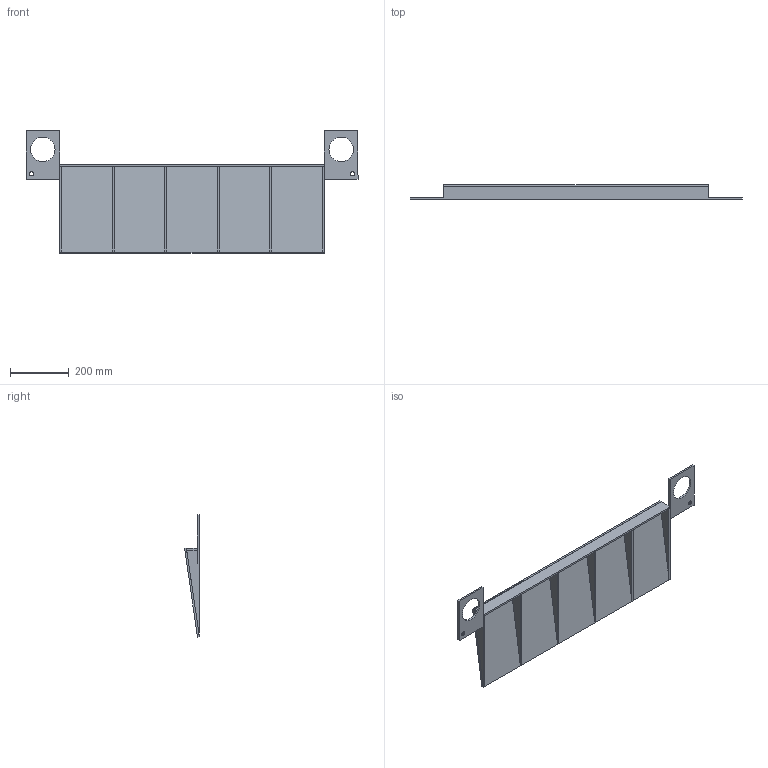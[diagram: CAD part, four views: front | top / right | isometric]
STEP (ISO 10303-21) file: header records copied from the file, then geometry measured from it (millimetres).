
FILE_DESCRIPTION (( 'STEP AP214' ), '1' );
FILE_NAME ('Drum Scale Ramp_HIDSR-3612 Series.STEP', '2024-05-14T15:49:24', ( '' ), ( '' ), 'SwSTEP 2.0', 'SolidWorks 2023', '' );
FILE_SCHEMA (( 'AUTOMOTIVE_DESIGN' ));
Length unit declared in the file: inch
Products named in the file (5): Drum Scale Ramp_HIDSR-3612 Series; PL.25 x 1.6875 x 35.5; 100-142098; 100-142099_Carbon Steel; DP.25 x 12 x 35.5
Assembly tree (10 placements, depth 2):
  Drum Scale Ramp_HIDSR-3612 Series
    PL.25 x 1.6875 x 35.5
    DP.25 x 12 x 35.5
    100-142098  x6
    100-142099_Carbon Steel  x2
Bounding box: 1130.3 x 50.53 x 416.79 mm (x, y, z)
Volume: 2397122.4 mm3; surface area: 817328.9 mm2
Topology: 10 solids, 10 shells, 62 faces, 126 edges, 84 vertices
Faces by surface type: plane 54, cylinder 8
Entity records: 947 total; most frequent: DIRECTION 145, CARTESIAN_POINT 135, ORIENTED_EDGE 114, EDGE_CURVE 57, VECTOR 49, LINE 49, AXIS2_PLACEMENT_3D 48, VERTEX_POINT 38
